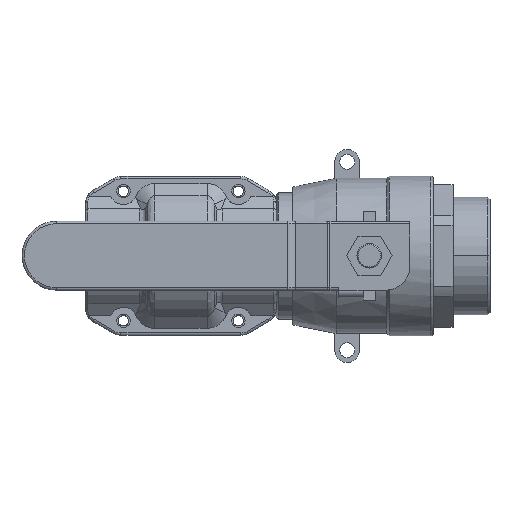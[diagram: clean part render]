
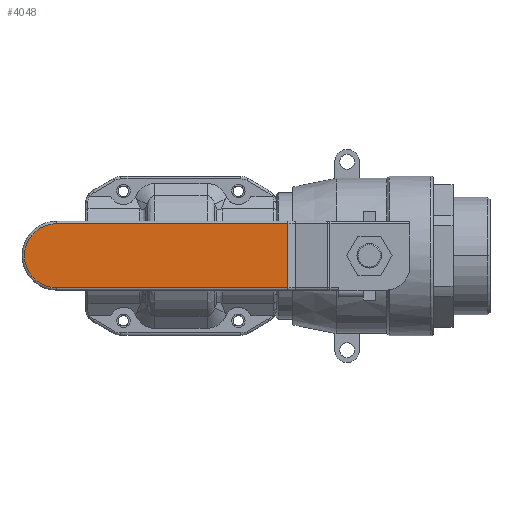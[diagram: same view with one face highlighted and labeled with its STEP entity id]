
A CAD part, top view. The second image highlights one B-rep face of the part: STEP entity #4048.
In plain terms, the highlighted planar face has unit normal (0, 0, 1).
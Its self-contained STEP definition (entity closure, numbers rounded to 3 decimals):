
#1065=DIRECTION('',(1.,0.,0.));
#1066=VECTOR('',#1065,94.546);
#1067=CARTESIAN_POINT('',(-52.388,13.097,70.522));
#1068=LINE('',#1067,#1066);
#1072=DIRECTION('',(0.,-1.,0.));
#1073=VECTOR('',#1072,26.194);
#1074=CARTESIAN_POINT('',(42.158,13.097,70.522));
#1075=LINE('',#1074,#1073);
#1079=DIRECTION('',(-1.,0.,0.));
#1080=VECTOR('',#1079,94.546);
#1081=CARTESIAN_POINT('',(42.158,-13.097,70.522));
#1082=LINE('',#1081,#1080);
#1086=CARTESIAN_POINT('',(-52.388,0.,70.522));
#1087=DIRECTION('',(0.,0.,-1.));
#1088=DIRECTION('',(0.,-1.,0.));
#1089=AXIS2_PLACEMENT_3D('',#1086,#1087,#1088);
#3063=CARTESIAN_POINT('',(42.158,13.097,70.522));
#3064=VERTEX_POINT('',#3063);
#3067=CARTESIAN_POINT('',(-52.388,13.097,70.522));
#3068=VERTEX_POINT('',#3067);
#3071=CARTESIAN_POINT('',(-52.388,-13.097,70.522));
#3072=VERTEX_POINT('',#3071);
#3075=CARTESIAN_POINT('',(42.158,-13.097,70.522));
#3076=VERTEX_POINT('',#3075);
#4036=CARTESIAN_POINT('',(-66.493,-14.104,70.522));
#4037=DIRECTION('',(0.,0.,1.));
#4038=DIRECTION('',(1.,0.,0.));
#4039=AXIS2_PLACEMENT_3D('',#4036,#4037,#4038);
#4040=PLANE('',#4039);
#4041=ORIENTED_EDGE('',*,*,#3949,.T.);
#4043=ORIENTED_EDGE('',*,*,#4042,.T.);
#4044=ORIENTED_EDGE('',*,*,#4030,.T.);
#4045=ORIENTED_EDGE('',*,*,#3934,.T.);
#4046=EDGE_LOOP('',(#4041,#4043,#4044,#4045));
#4047=FACE_OUTER_BOUND('',#4046,.F.);
#1090=CIRCLE('',#1089,13.097);
#3934=EDGE_CURVE('',#3072,#3068,#1090,.T.);
#3949=EDGE_CURVE('',#3068,#3064,#1068,.T.);
#4030=EDGE_CURVE('',#3076,#3072,#1082,.T.);
#4042=EDGE_CURVE('',#3064,#3076,#1075,.T.);
#4048=ADVANCED_FACE('',(#4047),#4040,.T.);
